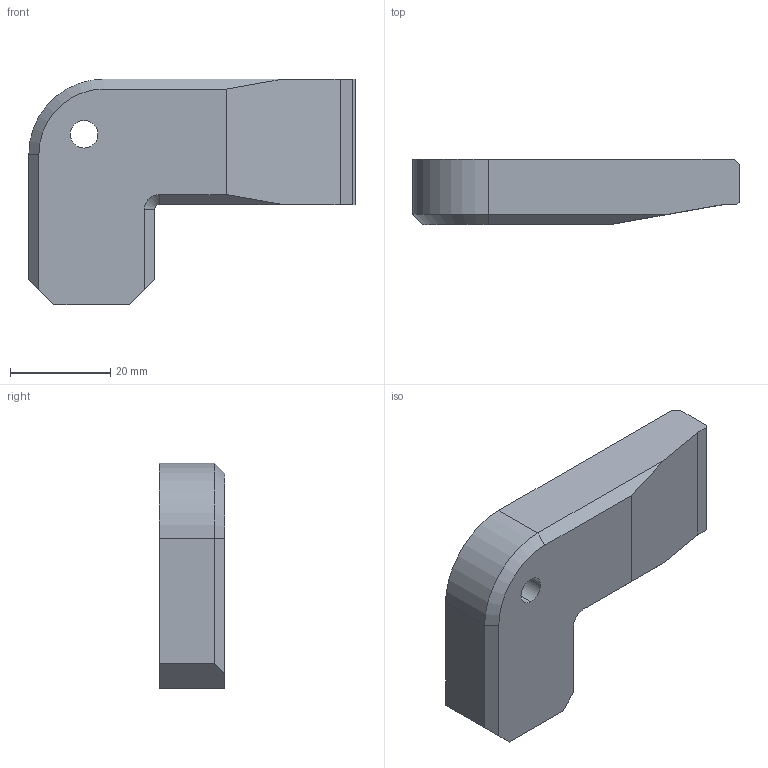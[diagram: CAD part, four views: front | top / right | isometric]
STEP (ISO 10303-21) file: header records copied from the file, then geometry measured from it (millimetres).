
FILE_DESCRIPTION (( 'STEP AP214' ), '1' );
FILE_NAME ('GZ27.04_V1 4-6接头嵌块.STEP', '2021-04-11T05:59:23', ( 'hp' ), ( '' ), 'SwSTEP 2.0', 'SolidWorks 2017', '' );
FILE_SCHEMA (( 'AUTOMOTIVE_DESIGN' ));
Length unit declared in the file: millimetre
Products named in the file (1): GZ27.04_V1 4-6接头嵌块
Bounding box: 65 x 13 x 45 mm (x, y, z)
Volume: 21480.5 mm3; surface area: 7588.4 mm2
Topology: 1 solids, 1 shells, 403 faces, 1103 edges, 730 vertices
Faces by surface type: plane 224, bspline 159, cylinder 14, cone 4, torus 2
Entity records: 22897 total; most frequent: CARTESIAN_POINT 10076, ORIENTED_EDGE 2206, DIRECTION 1309, EDGE_CURVE 1103, LINE 751, VECTOR 751, VERTEX_POINT 730, EDGE_LOOP 433
